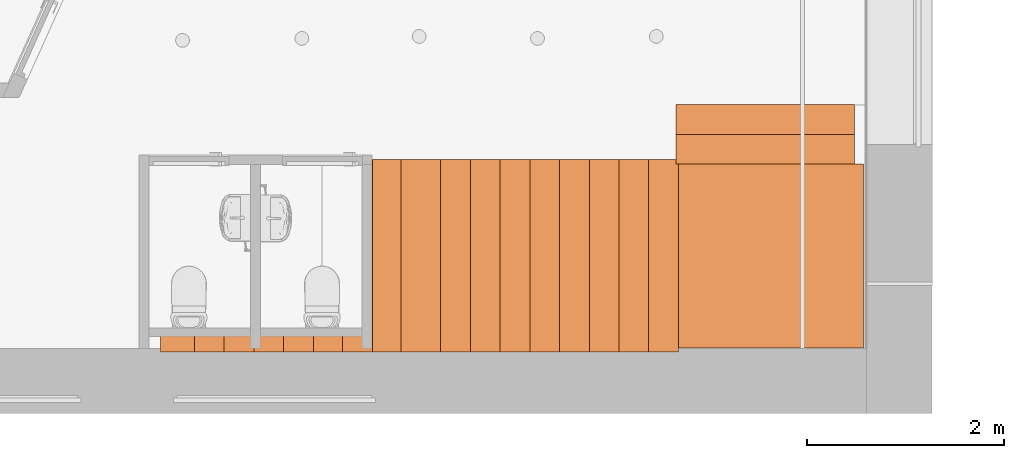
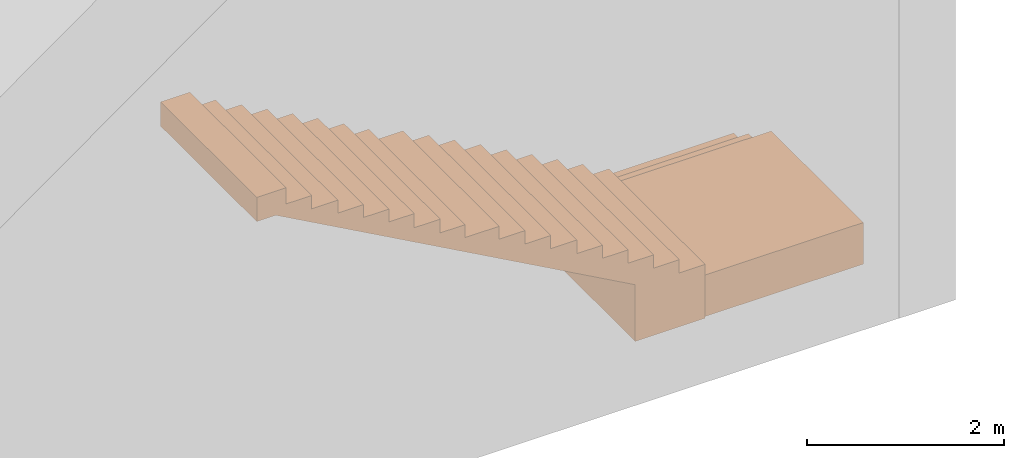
# One storey, part 24 of 25: 3 proxies.
"""IFC2X3 building model written with IfcOpenShell, lengths in millimetres."""

from ifc_helpers import new_model, entity, si_unit, converted_unit, derived_unit, direction, frame, frame_2d, origin, place, context, subcontext, project, spatial, polyline, rectangle, outline, extrude, source, transform, mapped, type_object, type_shapes, element, save


model = new_model("IFC2X3")

# Units and contexts
model_context = context("Model", 3, precision=0.01, world=origin(), true_north=direction((6.12303176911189e-17, 1.0)))
context_of_model = context(None, 3, precision=0.01, world=origin(), true_north=direction((6.12303176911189e-17, 1.0)))
body_context = subcontext(model_context, "Body", "Model", "MODEL_VIEW")
ifc_project = project(units=[si_unit("LENGTHUNIT", "METRE", prefix="MILLI"), si_unit("AREAUNIT", "SQUARE_METRE"), si_unit("VOLUMEUNIT", "CUBIC_METRE"), converted_unit("PLANEANGLEUNIT", "DEGREE", entity("IfcRatioMeasure", 0.0174532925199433), si_unit("PLANEANGLEUNIT", "RADIAN"), dimensions=[0, 0, 0, 0, 0, 0, 0]), si_unit("MASSUNIT", "GRAM", prefix="KILO"), derived_unit("MASSDENSITYUNIT", [(si_unit("MASSUNIT", "GRAM", prefix="KILO"), 1), (si_unit("LENGTHUNIT", "METRE"), -3)]), si_unit("TIMEUNIT", "SECOND"), si_unit("FREQUENCYUNIT", "HERTZ"), si_unit("THERMODYNAMICTEMPERATUREUNIT", "DEGREE_CELSIUS"), derived_unit("THERMALTRANSMITTANCEUNIT", [(si_unit("MASSUNIT", "GRAM", prefix="KILO"), 1), (si_unit("THERMODYNAMICTEMPERATUREUNIT", "KELVIN"), -1), (si_unit("TIMEUNIT", "SECOND"), -3)]), derived_unit("VOLUMETRICFLOWRATEUNIT", [(si_unit("LENGTHUNIT", "METRE"), 3), (si_unit("TIMEUNIT", "SECOND"), -1)]), si_unit("ELECTRICCURRENTUNIT", "AMPERE"), si_unit("ELECTRICVOLTAGEUNIT", "VOLT"), si_unit("POWERUNIT", "WATT"), si_unit("FORCEUNIT", "NEWTON", prefix="KILO"), si_unit("ILLUMINANCEUNIT", "LUX"), si_unit("LUMINOUSFLUXUNIT", "LUMEN"), si_unit("LUMINOUSINTENSITYUNIT", "CANDELA"), derived_unit("USERDEFINED", [(si_unit("MASSUNIT", "GRAM", prefix="KILO"), -1), (si_unit("LENGTHUNIT", "METRE"), -2), (si_unit("TIMEUNIT", "SECOND"), 3), (si_unit("LUMINOUSFLUXUNIT", "LUMEN"), 1)]), derived_unit("LINEARVELOCITYUNIT", [(si_unit("LENGTHUNIT", "METRE"), 1), (si_unit("TIMEUNIT", "SECOND"), -1)]), si_unit("PRESSUREUNIT", "PASCAL"), derived_unit("USERDEFINED", [(si_unit("LENGTHUNIT", "METRE"), -2), (si_unit("MASSUNIT", "GRAM", prefix="KILO"), 1), (si_unit("TIMEUNIT", "SECOND"), -2)])], contexts=[model_context, context_of_model])

# Site, building, storey, space
site_placement = place(None, frame((121442.264707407, 135347.995453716, -1800.0)))
site = spatial("IfcSite", under=ifc_project, at=site_placement, Name="Surface", CompositionType="ELEMENT")
building_placement = place(site_placement, origin())
building = spatial("IfcBuilding", under=site, at=building_placement, CompositionType="ELEMENT")
storey_placement = place(building_placement, frame((0.0, 0.0, 1800.0)))
storey = spatial("IfcBuildingStorey", under=building, at=storey_placement, Name="1 korrus", CompositionType="ELEMENT", Elevation=1800.00000000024)
space_placement = place(storey_placement, origin())
space = spatial("IfcSpace", under=storey, at=space_placement, Name="127", CompositionType="ELEMENT", InteriorOrExteriorSpace="INTERNAL")

# Proxies
building_element_proxy_type_1 = type_object("IfcBuildingElementProxyType", Name="Stairs25", PredefinedType="NOTDEFINED")
shared_shape_1 = source(origin(), body_context, "Body", "SweptSolid", [
    extrude(outline(polyline([(1239.3777785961, -2577.7204215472), (1906.57709339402, -2577.7204215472), (1906.57709339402, -1759.44551104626), (1204.39365221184, -1759.44551104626), (-1128.42290660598, 2449.06696534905), (-1128.42290660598, 2673.21509209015), (-1428.42290660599, 2673.21509209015), (-1428.42290660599, 2329.31636178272), (-1227.63395559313, 2329.31636178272), (-1227.63395559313, 2029.31636178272), (-1062.63395559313, 2029.31636178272), (-1062.63395559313, 1724.31636178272), (-902.633955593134, 1724.31636178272), (-902.633955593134, 1424.31636178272), (-742.633955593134, 1424.31636178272), (-742.633955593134, 1124.31636178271), (-582.633955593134, 1124.31636178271), (-582.633955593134, 829.316361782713), (-407.633955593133, 829.316361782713), (-407.633955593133, 524.316361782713), (-237.097138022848, 524.316361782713), (-237.097138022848, 234.316361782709), (-77.0971380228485, 234.316361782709), (-77.0971380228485, -165.014192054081), (82.9028619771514, -165.014192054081), (82.9028619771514, -470.014192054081), (247.902861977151, -470.014192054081), (247.90286197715, -770.014192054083), (410.543614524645, -770.014192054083), (410.543614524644, -1075.01419205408), (580.543614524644, -1075.01419205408), (580.543614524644, -1375.01419205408), (743.043614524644, -1375.01419205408), (743.043614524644, -1675.01419205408), (909.377778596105, -1675.01419205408), (909.377778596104, -1975.01419205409), (1074.3777785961, -1975.01419205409), (1074.3777785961, -2275.01419205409), (1239.3777785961, -2275.01419205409), (1239.3777785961, -2577.7204215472)])), frame((-108178.523732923, -133187.076019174, 3696.57709339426), z_axis=(0.0, 1.0, 0.0), x_axis=(0.0, 0.0, -1.0)), (0.0, 0.0, 1.0), 1951.6648314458),
])
type_shapes(building_element_proxy_type_1, [shared_shape_1])
proxy_1_placement = place(space_placement, frame((0.0, 0.0, -1800.0)))
element("IfcBuildingElementProxy", 1, at=proxy_1_placement, inside=space, type_object=building_element_proxy_type_1, Name="Stairs25:Stairs25", ObjectType="Stairs25", context=body_context, shape_type="MappedRepresentation", body=[
    mapped(shared_shape_1, transform((0.0, 0.0, 0.0), scale=1.0)),
])
building_element_proxy_type_2 = type_object("IfcBuildingElementProxyType", Name="Stairs26", PredefinedType="NOTDEFINED")
shared_shape_2 = source(origin(), body_context, "Body", "SweptSolid", [
    extrude(outline(polyline([(0.0, -169.143294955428), (300.0, -169.143294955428), (300.0, 163.286589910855), (-300.0, 163.286589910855), (-300.0, 5.85670504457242), (0.0, 5.85670504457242), (0.0, -169.143294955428)])), frame((-105624.028942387, -130977.995453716, 1943.2865899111), z_axis=(1.0, 0.0, 0.0), x_axis=(0.0, -1.0, 0.0)), (0.0, 0.0, 1.0), 1808.45071103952),
])
type_shapes(building_element_proxy_type_2, [shared_shape_2])
proxy_2_placement = place(space_placement, frame((0.0, 0.0, -1800.0)))
element("IfcBuildingElementProxy", 2, at=proxy_2_placement, inside=space, type_object=building_element_proxy_type_2, Name="Stairs26:Stairs26", ObjectType="Stairs26", context=body_context, shape_type="MappedRepresentation", body=[
    mapped(shared_shape_2, transform((0.0, 0.0, 0.0), scale=1.0)),
])
building_element_proxy_type_3 = type_object("IfcBuildingElementProxyType", Name="Stairs26", PredefinedType="NOTDEFINED")
shared_shape_3 = source(origin(), body_context, "Body", "SweptSolid", [
    extrude(rectangle(XDim=1877.32804538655, YDim=1870.00000000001, at=frame_2d((8.64019966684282e-12, 8.69704308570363e-12), x_axis=(1.0, 0.0))), frame((-104662.139288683, -132212.995453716, 1780.0), z_axis=(0.0, 0.0, 1.0), x_axis=(-1.0, 0.0, 0.0)), (0.0, 0.0, 1.0), 514.929884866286),
])
type_shapes(building_element_proxy_type_3, [shared_shape_3])
proxy_3_placement = place(space_placement, frame((0.0, 0.0, -1800.0)))
element("IfcBuildingElementProxy", 3, at=proxy_3_placement, inside=space, type_object=building_element_proxy_type_3, Name="Stairs27:Stairs26", ObjectType="Stairs26", context=body_context, shape_type="MappedRepresentation", body=[
    mapped(shared_shape_3, transform((0.0, 0.0, 0.0), scale=1.0)),
])

save(model, "model.ifc")
